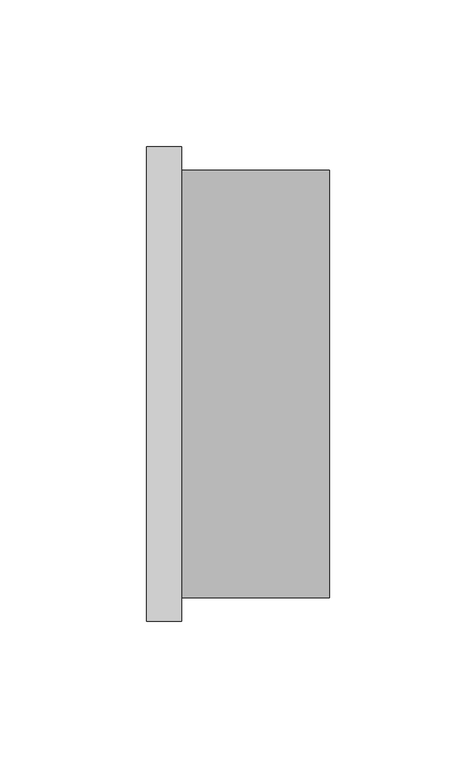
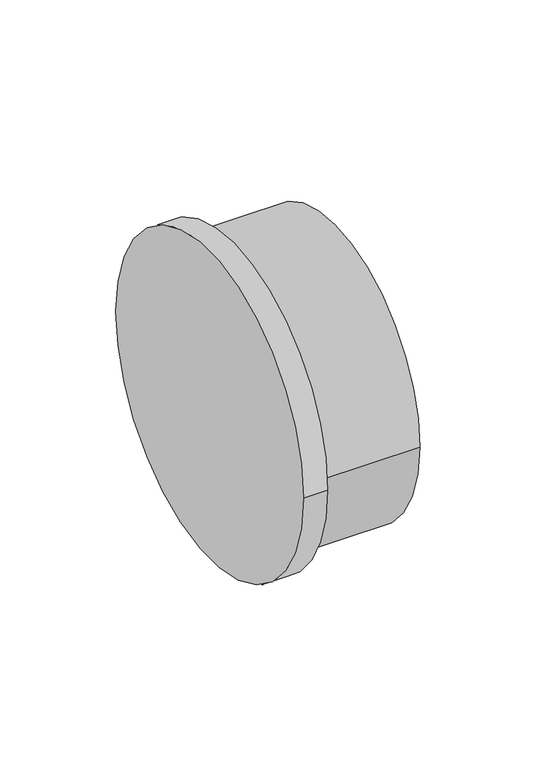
"""IFC4 building model written with IfcOpenShell, lengths in millimetres: pipe fitting geometry, NIRON RED termofusion casquillo : Estándar."""

from ifc_helpers import new_model, si_unit, point, frame, origin, origin_2d, place, context, project, spatial, circle_curve, trimmed, segment, composite_curve, outline, extrude, source, transform, mapped, element, save


def pipe_fitting_1d9b4180(model_context):
    return source(origin(), model_context, "Body", "SweptSolid", [
        extrude(outline(composite_curve([segment(trimmed(circle_curve(origin_2d(), 73.0), [point((73.0, 0.0))], [point((-73.0, 0.0))], False, "CARTESIAN"), True, "CONTINUOUS"), segment(trimmed(circle_curve(origin_2d(), 73.0), [point((-73.0, 0.0))], [point((73.0, 0.0))], False, "CARTESIAN"), True, "CONTINUOUS")], self_intersect=False)), frame((12.0, 0.0, 0.0), z_axis=(1.0, 0.0, 0.0), x_axis=(0.0, 1.0, 0.0)), (0.0, 0.0, 1.0), 50.5),
        extrude(outline(composite_curve([segment(trimmed(circle_curve(origin_2d(), 81.0), [point((-81.0, 0.0))], [point((81.0, 0.0))], False, "CARTESIAN"), True, "CONTINUOUS"), segment(trimmed(circle_curve(origin_2d(), 81.0), [point((81.0, 0.0))], [point((-81.0, 0.0))], False, "CARTESIAN"), True, "CONTINUOUS")], self_intersect=False)), frame((0.0, 0.0, 0.0), z_axis=(1.0, 0.0, 0.0), x_axis=(0.0, 1.0, 0.0)), (0.0, 0.0, 1.0), 12.0),
    ])


if __name__ == "__main__":
    model = new_model("IFC4")
    model_context = context("Model", 3, world=origin())
    ifc_project = project(units=[si_unit("LENGTHUNIT", "METRE", prefix="MILLI")], contexts=[model_context])
    site = spatial("IfcSite", under=ifc_project)
    building = spatial("IfcBuilding", under=site)
    placement = place(None, origin())
    pipe_fitting_shape = pipe_fitting_1d9b4180(model_context)
    element("IfcPipeFitting", 1, ObjectType="NIRON RED termofusion casquillo : Estándar", at=placement, inside=building, context=model_context, shape_type="MappedRepresentation", body=[
        mapped(pipe_fitting_shape, transform((0.0, 0.0, 0.0), x_axis=(1.0, 0.0, 0.0), y_axis=(0.0, 1.0, 0.0), z_axis=(0.0, 0.0, 1.0))),
    ])
    save(model, "model.ifc")
